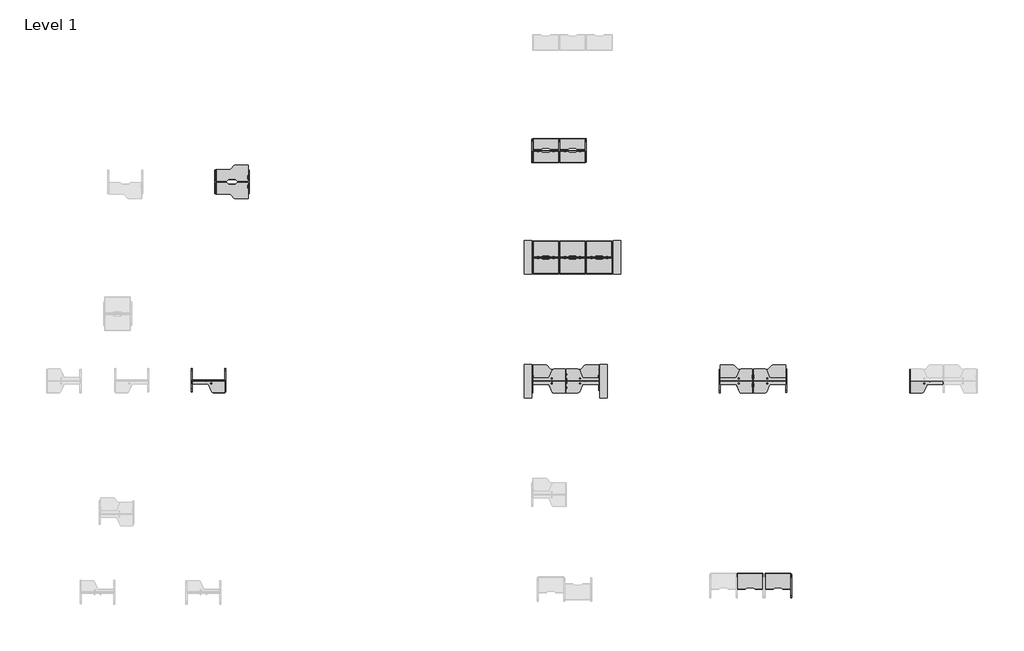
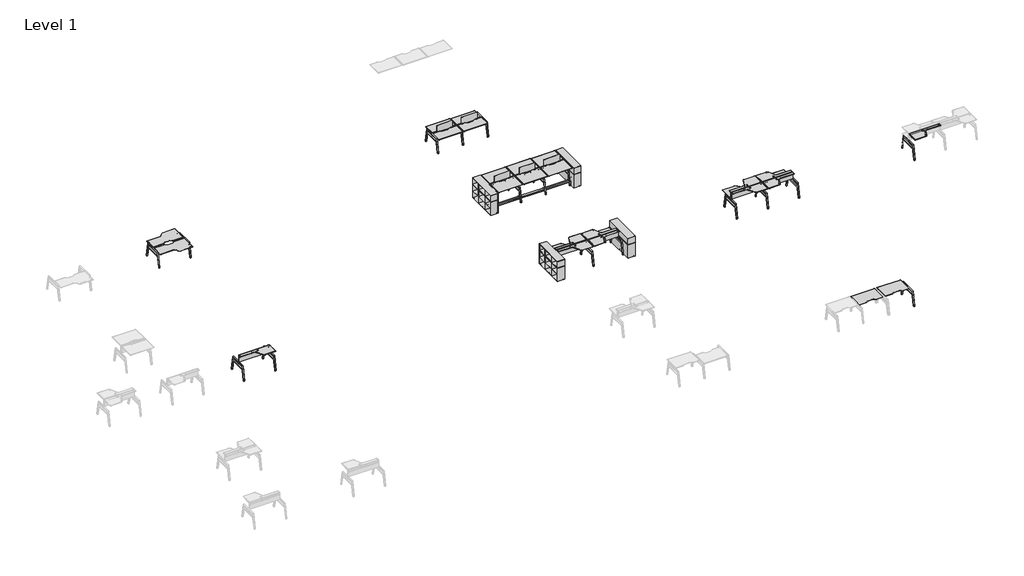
# One storey, part 3 of 6: 115 furniture elements.
"""IFC4 building model written with IfcOpenShell, lengths in millimetres."""

from ifc_helpers import new_model, si_unit, origin, place, context, project, spatial, transform, mapped, element, save
from components import furniture_6679164a, furniture_2405483f, furniture_07929c5c, furniture_5ffd5a01, furniture_3_high_75bf60bf, furniture_3_high_59e398f0, furniture_3_high_cb3a7265, furniture_2_high_e7661cec, furniture_48w_80b5658e, furniture_48w_f59d3814, furniture_60w_cce648a8, furniture_60w_9ca0c22e, furniture_60w_left_193ce283, furniture_60w_left_80dfc609, furniture_60w_right_423f7bdd, furniture_60w_right_6b6f8c7d, furniture_60w_right_3e926bd7, furniture_60w_right_09d68f9b, double_mini_hook_front_8bcf4326, double_mini_hook_front_c12a3f64, full_half_8ba35e3a, full_half_125b1efd, lower_48w_93449fcc, lower_48w_d15a52aa, table_mount_b10ff3c6, table_mount_8f96cead

model = new_model("IFC4")

# Units and contexts
model_context = context("Model", 3, world=origin())
ifc_project = project(units=[si_unit("LENGTHUNIT", "METRE", prefix="MILLI")], contexts=[model_context])

# Site, building, storey
site = spatial("IfcSite", under=ifc_project)
building = spatial("IfcBuilding", under=site)
storey = spatial("IfcBuildingStorey", under=building, Name="Level 1", Elevation=0.0)

# Furniture
placement = place(None, origin())
furniture_shape = furniture_6679164a(model_context)
element("IfcFurniture", 1, ObjectType="Steelcase Turnstone - Bivi - Table - Table Top : 30D x 48W", at=placement, inside=storey, context=model_context, shape_type="MappedRepresentation", body=[
    mapped(furniture_shape, transform((720817.4614089, -9042.1725223, 342.9), x_axis=(1.0, 0.0, 0.0), y_axis=(0.0, 1.0, 0.0), z_axis=(0.0, 0.0, 1.0))),
])
element("IfcFurniture", 2, ObjectType="Steelcase Turnstone - Bivi - Table - Table Top : 30D x 48W", at=placement, inside=storey, context=model_context, shape_type="MappedRepresentation", body=[
    mapped(furniture_shape, transform((722034.9850089, -9042.1725223, 342.9), x_axis=(1.0, 0.0, 0.0), y_axis=(0.0, 1.0, 0.0), z_axis=(0.0, 0.0, 1.0))),
])
element("IfcFurniture", 3, ObjectType="Steelcase Turnstone - Bivi - Table - Table Top : 30D x 48W", at=placement, inside=storey, context=model_context, shape_type="MappedRepresentation", body=[
    mapped(furniture_shape, transform((723252.5086089, -9042.1725223, 342.9), x_axis=(1.0, 0.0, 0.0), y_axis=(0.0, 1.0, 0.0), z_axis=(0.0, 0.0, 1.0))),
])
element("IfcFurniture", 4, ObjectType="Steelcase Turnstone - Bivi - Table - Table Top : 30D x 48W", at=placement, inside=storey, context=model_context, shape_type="MappedRepresentation", body=[
    mapped(furniture_shape, transform((724724.3517133, -7547.6349873, 342.9), x_axis=(-1.0000000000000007, 0.0, 0.0), y_axis=(0.0, -1.0000000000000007, 0.0), z_axis=(0.0, 0.0, 1.0))),
])
element("IfcFurniture", 5, ObjectType="Steelcase Turnstone - Bivi - Table - Table Top : 30D x 48W", at=placement, inside=storey, context=model_context, shape_type="MappedRepresentation", body=[
    mapped(furniture_shape, transform((723508.1850089, -7547.6349873, 342.9), x_axis=(-1.0, 0.0, 0.0), y_axis=(0.0, -1.0, 0.0), z_axis=(0.0, 0.0, 1.0))),
])
element("IfcFurniture", 6, ObjectType="Steelcase Turnstone - Bivi - Table - Table Top : 30D x 48W", at=placement, inside=storey, context=model_context, shape_type="MappedRepresentation", body=[
    mapped(furniture_shape, transform((722290.6614089, -7547.6349873, 342.9), x_axis=(-1.0, 0.0, 0.0), y_axis=(0.0, -1.0, 0.0), z_axis=(0.0, 0.0, 1.0))),
])
element("IfcFurniture", 7, ObjectType="Steelcase Turnstone - Bivi - Table - Table Top : 30D x 48W", at=placement, inside=storey, context=model_context, shape_type="MappedRepresentation", body=[
    mapped(furniture_shape, transform((731608.1023207, -22712.7570381, 0.0), x_axis=(-1.0, 0.0, 0.0), y_axis=(0.0, -1.0, 0.0), z_axis=(0.0, 0.0, 1.0))),
])
element("IfcFurniture", 8, ObjectType="Steelcase Turnstone - Bivi - Table - Table Top : 30D x 48W", at=placement, inside=storey, context=model_context, shape_type="MappedRepresentation", body=[
    mapped(furniture_shape, transform((732874.7495207, -22712.7570381, 0.0), x_axis=(-1.0, 0.0, 0.0), y_axis=(0.0, -1.0, 0.0), z_axis=(0.0, 0.0, 1.0))),
])
furniture_2_shape = furniture_2405483f(model_context)
element("IfcFurniture", 9, ObjectType="Steelcase Turnstone - Bivi - Table - Table Top : 21D x 48W", at=placement, inside=storey, context=model_context, shape_type="MappedRepresentation", body=[
    mapped(furniture_2_shape, transform((720817.4614089, -4179.9288554, 0.0), x_axis=(1.0, 0.0, 0.0), y_axis=(0.0, 1.0, 0.0), z_axis=(0.0, 0.0, 1.0))),
])
element("IfcFurniture", 10, ObjectType="Steelcase Turnstone - Bivi - Table - Table Top : 21D x 48W", at=placement, inside=storey, context=model_context, shape_type="MappedRepresentation", body=[
    mapped(furniture_2_shape, transform((722034.9850089, -4168.4473052, 0.0), x_axis=(1.0, 0.0, 0.0), y_axis=(0.0, 1.0, 0.0), z_axis=(0.0, 0.0, 1.0))),
])
element("IfcFurniture", 11, ObjectType="Steelcase Turnstone - Bivi - Table - Table Top : 21D x 48W", at=placement, inside=storey, context=model_context, shape_type="MappedRepresentation", body=[
    mapped(furniture_2_shape, transform((723508.1850089, -2656.390765, 0.0), x_axis=(-1.0000000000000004, 0.0, 0.0), y_axis=(0.0, -1.0000000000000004, 0.0), z_axis=(0.0, 0.0, 1.0))),
])
element("IfcFurniture", 12, ObjectType="Steelcase Turnstone - Bivi - Table - Table Top : 21D x 48W", at=placement, inside=storey, context=model_context, shape_type="MappedRepresentation", body=[
    mapped(furniture_2_shape, transform((722290.6614089, -2656.390765, 0.0), x_axis=(-1.0, 0.0, 0.0), y_axis=(0.0, -1.0, 0.0), z_axis=(0.0, 0.0, 1.0))),
])
furniture_3_shape = furniture_07929c5c(model_context)
element("IfcFurniture", 13, ObjectType="Steelcase Turnstone - Bivi - Table - Leg : 2D x 42 1/4W 28 1/2H", at=placement, inside=storey, context=model_context, shape_type="MappedRepresentation", body=[
    mapped(furniture_3_shape, transform((708035.1482581, -5382.1993674, 0.0), x_axis=(-1.0, 0.0, 0.0), y_axis=(0.0, -1.0, 0.0), z_axis=(0.0, 0.0, 1.0))),
])
element("IfcFurniture", 14, ObjectType="Steelcase Turnstone - Bivi - Table - Leg : 2D x 42 1/4W 28 1/2H", at=placement, inside=storey, context=model_context, shape_type="MappedRepresentation", body=[
    mapped(furniture_3_shape, transform((722187.3850089, -3954.7967596, 0.0), x_axis=(-1.0, 0.0, 0.0), y_axis=(0.0, -1.0, 0.0), z_axis=(0.0, 0.0, 1.0))),
])
element("IfcFurniture", 15, ObjectType="Steelcase Turnstone - Bivi - Table - Leg : 2D x 42 1/4W 28 1/2H", at=placement, inside=storey, context=model_context, shape_type="MappedRepresentation", body=[
    mapped(furniture_3_shape, transform((723404.9086089, -3954.7967596, 0.0), x_axis=(-1.0, 0.0, 0.0), y_axis=(0.0, -1.0, 0.0), z_axis=(0.0, 0.0, 1.0))),
])
element("IfcFurniture", 16, ObjectType="Steelcase Turnstone - Bivi - Table - Leg : 2D x 42 1/4W 28 1/2H", at=placement, inside=storey, context=model_context, shape_type="MappedRepresentation", body=[
    mapped(furniture_3_shape, transform((722187.3850089, -8852.8908952, 0.0), x_axis=(-1.0, 0.0, 0.0), y_axis=(0.0, -1.0, 0.0), z_axis=(0.0, 0.0, 1.0))),
])
element("IfcFurniture", 17, ObjectType="Steelcase Turnstone - Bivi - Table - Leg : 2D x 42 1/4W 28 1/2H", at=placement, inside=storey, context=model_context, shape_type="MappedRepresentation", body=[
    mapped(furniture_3_shape, transform((723404.9086089, -8852.8908952, 0.0), x_axis=(-1.0, 0.0, 0.0), y_axis=(0.0, -1.0, 0.0), z_axis=(0.0, 0.0, 1.0))),
])
element("IfcFurniture", 18, ObjectType="Steelcase Turnstone - Bivi - Table - Leg : 2D x 42 1/4W 28 1/2H", at=placement, inside=storey, context=model_context, shape_type="MappedRepresentation", body=[
    mapped(furniture_3_shape, transform((722492.1850089, -14477.6722991, 0.0), x_axis=(-1.0, 0.0, 0.0), y_axis=(0.0, -1.0, 0.0), z_axis=(0.0, 0.0, 1.0))),
])
element("IfcFurniture", 19, ObjectType="Steelcase Turnstone - Bivi - Table - Leg : 2D x 42 1/4W 28 1/2H", at=placement, inside=storey, context=model_context, shape_type="MappedRepresentation", body=[
    mapped(furniture_3_shape, transform((731026.5850089, -14477.6722991, 0.0), x_axis=(-1.0, 0.0, 0.0), y_axis=(0.0, -1.0, 0.0), z_axis=(0.0, 0.0, 1.0))),
])
element("IfcFurniture", 20, ObjectType="Steelcase Turnstone - Bivi - Table - Leg : 2D x 42 1/4W 28 1/2H", at=placement, inside=storey, context=model_context, shape_type="MappedRepresentation", body=[
    mapped(furniture_3_shape, transform((732771.4731207, -23828.3096324, 0.0), x_axis=(-1.0, 0.0, 0.0), y_axis=(0.0, -1.0, 0.0), z_axis=(0.0, 0.0, 1.0))),
])
element("IfcFurniture", 21, ObjectType="Steelcase Turnstone - Bivi - Table - Leg : 2D x 42 1/4W 28 1/2H", at=placement, inside=storey, context=model_context, shape_type="MappedRepresentation", body=[
    mapped(furniture_3_shape, transform((706967.4208352, -14423.847304, 0.0), x_axis=(-1.0, 0.0, 0.0), y_axis=(0.0, -1.0, 0.0), z_axis=(0.0, 0.0, 1.0))),
])
furniture_4_shape = furniture_5ffd5a01(model_context)
element("IfcFurniture", 22, ObjectType="Steelcase Turnstone - Bivi - Table - Leg : 2D x 42 1/4W 28 1/2H", at=placement, inside=storey, context=model_context, shape_type="MappedRepresentation", body=[
    mapped(furniture_4_shape, transform((706463.6950567, -5382.1993674, 0.0), x_axis=(1.0, 0.0, 0.0), y_axis=(0.0, 1.0, 0.0), z_axis=(0.0, 0.0, 1.0))),
])
element("IfcFurniture", 23, ObjectType="Steelcase Turnstone - Bivi - Table - Leg : 2D x 42 1/4W 28 1/2H", at=placement, inside=storey, context=model_context, shape_type="MappedRepresentation", body=[
    mapped(furniture_4_shape, transform((720920.7378089, -3962.0722991, 0.0), x_axis=(1.0, 0.0, 0.0), y_axis=(0.0, 1.0, 0.0), z_axis=(0.0, 0.0, 1.0))),
])
element("IfcFurniture", 24, ObjectType="Steelcase Turnstone - Bivi - Table - Leg : 2D x 42 1/4W 28 1/2H", at=placement, inside=storey, context=model_context, shape_type="MappedRepresentation", body=[
    mapped(furniture_4_shape, transform((720920.7378089, -8811.7961262, 0.0), x_axis=(1.0, 0.0, 0.0), y_axis=(0.0, 1.0, 0.0), z_axis=(0.0, 0.0, 1.0))),
])
element("IfcFurniture", 25, ObjectType="Steelcase Turnstone - Bivi - Table - Leg : 2D x 42 1/4W 28 1/2H", at=placement, inside=storey, context=model_context, shape_type="MappedRepresentation", body=[
    mapped(furniture_4_shape, transform((724571.9517133, -8790.5861861, 0.0), x_axis=(1.0, 0.0, 0.0), y_axis=(0.0, 1.0, 0.0), z_axis=(0.0, 0.0, 1.0))),
])
element("IfcFurniture", 26, ObjectType="Steelcase Turnstone - Bivi - Table - Leg : 2D x 42 1/4W 28 1/2H", at=placement, inside=storey, context=model_context, shape_type="MappedRepresentation", body=[
    mapped(furniture_4_shape, transform((720920.7378089, -14477.6722991, 0.0), x_axis=(1.0, 0.0, 0.0), y_axis=(0.0, 1.0, 0.0), z_axis=(0.0, 0.0, 1.0))),
])
element("IfcFurniture", 27, ObjectType="Steelcase Turnstone - Bivi - Table - Leg : 2D x 42 1/4W 28 1/2H", at=placement, inside=storey, context=model_context, shape_type="MappedRepresentation", body=[
    mapped(furniture_4_shape, transform((723963.7086089, -14352.195457, 0.0), x_axis=(1.0, 0.0, 0.0), y_axis=(0.0, 1.0, 0.0), z_axis=(0.0, 0.0, 1.0))),
])
element("IfcFurniture", 28, ObjectType="Steelcase Turnstone - Bivi - Table - Leg : 2D x 42 1/4W 28 1/2H", at=placement, inside=storey, context=model_context, shape_type="MappedRepresentation", body=[
    mapped(furniture_4_shape, transform((729455.1378089, -14477.6722991, 0.0), x_axis=(1.0, 0.0, 0.0), y_axis=(0.0, 1.0, 0.0), z_axis=(0.0, 0.0, 1.0))),
])
element("IfcFurniture", 29, ObjectType="Steelcase Turnstone - Bivi - Table - Leg : 2D x 42 1/4W 28 1/2H", at=placement, inside=storey, context=model_context, shape_type="MappedRepresentation", body=[
    mapped(furniture_4_shape, transform((732498.1086089, -14455.8404265, 0.0), x_axis=(1.0, 0.0, 0.0), y_axis=(0.0, 1.0, 0.0), z_axis=(0.0, 0.0, 1.0))),
])
element("IfcFurniture", 30, ObjectType="Steelcase Turnstone - Bivi - Table - Leg : 2D x 42 1/4W 28 1/2H", at=placement, inside=storey, context=model_context, shape_type="MappedRepresentation", body=[
    mapped(furniture_4_shape, transform((738141.9378089, -14477.6722991, 0.0), x_axis=(1.0, 0.0, 0.0), y_axis=(0.0, 1.0, 0.0), z_axis=(0.0, 0.0, 1.0))),
])
element("IfcFurniture", 31, ObjectType="Steelcase Turnstone - Bivi - Table - Leg : 2D x 42 1/4W 28 1/2H", at=placement, inside=storey, context=model_context, shape_type="MappedRepresentation", body=[
    mapped(furniture_4_shape, transform((705395.9736352, -14423.847304, 0.0), x_axis=(1.0, 0.0, 0.0), y_axis=(0.0, 1.0, 0.0), z_axis=(0.0, 0.0, 1.0))),
])
furniture_3_high_shape = furniture_3_high_75bf60bf(model_context)
furniture_3_high_2_shape = furniture_3_high_59e398f0(model_context)
element("IfcFurniture", 32, ObjectType="Steelcase Turnstone - Bivi - Storage - Depot : 3 High", at=placement, inside=storey, context=model_context, shape_type="MappedRepresentation", body=[
    mapped(furniture_3_high_shape, transform((720568.3128089, -9056.7288494, 0.0), x_axis=(0.0, 1.0, 0.0), y_axis=(-1.0, 0.0, 0.0), z_axis=(0.0, 0.0, 1.0))),
    mapped(furniture_3_high_2_shape, transform((720568.3128089, -9056.7288494, 0.0), x_axis=(0.0, 1.0, 0.0), y_axis=(-1.0, 0.0, 0.0), z_axis=(0.0, 0.0, 1.0))),
])
element("IfcFurniture", 33, ObjectType="Steelcase Turnstone - Bivi - Storage - Depot : 3 High", at=placement, inside=storey, context=model_context, shape_type="MappedRepresentation", body=[
    mapped(furniture_3_high_shape, transform((720568.3128089, -14695.5288494, 0.0), x_axis=(0.0, 1.0, 0.0), y_axis=(-1.0, 0.0, 0.0), z_axis=(0.0, 0.0, 1.0))),
    mapped(furniture_3_high_2_shape, transform((720568.3128089, -14695.5288494, 0.0), x_axis=(0.0, 1.0, 0.0), y_axis=(-1.0, 0.0, 0.0), z_axis=(0.0, 0.0, 1.0))),
])
furniture_3_high_3_shape = furniture_3_high_cb3a7265(model_context)
furniture_2_high_shape = furniture_2_high_e7661cec(model_context)
element("IfcFurniture", 34, ObjectType="Steelcase Turnstone - Bivi - Storage - Depot : 3 High", at=placement, inside=storey, context=model_context, shape_type="MappedRepresentation", body=[
    mapped(furniture_3_high_3_shape, transform((724974.8572089, -9056.7288494, 0.0), x_axis=(0.0, 1.0, 0.0), y_axis=(-1.0, 0.0, 0.0), z_axis=(0.0, 0.0, 1.0))),
    mapped(furniture_2_high_shape, transform((724974.8572089, -9056.7288494, 0.0), x_axis=(0.0, 1.0, 0.0), y_axis=(-1.0, 0.0, 0.0), z_axis=(0.0, 0.0, 1.0))),
])
element("IfcFurniture", 35, ObjectType="Steelcase Turnstone - Bivi - Storage - Depot : 3 High", at=placement, inside=storey, context=model_context, shape_type="MappedRepresentation", body=[
    mapped(furniture_3_high_3_shape, transform((724365.2572089, -14695.5288494, 0.0), x_axis=(0.0, 1.0, 0.0), y_axis=(-1.0, 0.0, 0.0), z_axis=(0.0, 0.0, 1.0))),
    mapped(furniture_2_high_shape, transform((724365.2572089, -14695.5288494, 0.0), x_axis=(0.0, 1.0, 0.0), y_axis=(-1.0, 0.0, 0.0), z_axis=(0.0, 0.0, 1.0))),
])
furniture_48w_shape = furniture_48w_80b5658e(model_context)
element("IfcFurniture", 36, ObjectType="Steelcase Turnstone - Bivi - Accessories - High Sit Bracket with Modesty Panel : 48W", at=placement, inside=storey, context=model_context, shape_type="MappedRepresentation", body=[
    mapped(furniture_48w_shape, transform((723509.9630089, -8212.4769492, 0.0), x_axis=(-1.0, 0.0, 0.0), y_axis=(0.0, -1.0, 0.0), z_axis=(0.0, 0.0, 1.0))),
])
furniture_48w_2_shape = furniture_48w_f59d3814(model_context)
element("IfcFurniture", 37, ObjectType="Steelcase Turnstone - Bivi - Accessories - High Sit Bracket with Modesty Panel : 48W", at=placement, inside=storey, context=model_context, shape_type="MappedRepresentation", body=[
    mapped(furniture_48w_2_shape, transform((720815.6834089, -8212.4769492, 0.0), x_axis=(1.0, 0.0, 0.0), y_axis=(0.0, 1.0, 0.0), z_axis=(0.0, 0.0, 1.0))),
])
element("IfcFurniture", 38, ObjectType="Steelcase Turnstone - Bivi - Accessories - High Sit Bracket with Modesty Panel : 48W", at=placement, inside=storey, context=model_context, shape_type="MappedRepresentation", body=[
    mapped(furniture_48w_2_shape, transform((723250.7306089, -8212.4769492, 0.0), x_axis=(1.0, 0.0, 0.0), y_axis=(0.0, 1.0, 0.0), z_axis=(0.0, 0.0, 1.0))),
])
furniture_60w_shape = furniture_60w_cce648a8(model_context)
element("IfcFurniture", 39, ObjectType="Steelcase Turnstone - Bivi - Accessories - High Sit Bracket with Modesty Panel : 60W", at=placement, inside=storey, context=model_context, shape_type="MappedRepresentation", body=[
    mapped(furniture_60w_shape, transform((723965.8157862, -13851.2769492, 0.0), x_axis=(-1.0, 0.0, 0.0), y_axis=(0.0, -1.0, 0.0), z_axis=(0.0, 0.0, 1.0))),
])
element("IfcFurniture", 40, ObjectType="Steelcase Turnstone - Bivi - Accessories - High Sit Bracket with Modesty Panel : 60W", at=placement, inside=storey, context=model_context, shape_type="MappedRepresentation", body=[
    mapped(furniture_60w_shape, transform((732500.2157862, -13851.2769492, 0.0), x_axis=(-1.0, 0.0, 0.0), y_axis=(0.0, -1.0, 0.0), z_axis=(0.0, 0.0, 1.0))),
])
furniture_60w_2_shape = furniture_60w_9ca0c22e(model_context)
element("IfcFurniture", 41, ObjectType="Steelcase Turnstone - Bivi - Accessories - High Sit Bracket with Modesty Panel : 60W", at=placement, inside=storey, context=model_context, shape_type="MappedRepresentation", body=[
    mapped(furniture_60w_2_shape, transform((705443.3192352, -13841.0954705, 0.0), x_axis=(1.0, 0.0, 0.0), y_axis=(0.0, 1.0, 0.0), z_axis=(0.0, 0.0, 1.0))),
])
element("IfcFurniture", 42, ObjectType="Steelcase Turnstone - Bivi - Accessories - High Sit Bracket with Modesty Panel : 60W", at=placement, inside=storey, context=model_context, shape_type="MappedRepresentation", body=[
    mapped(furniture_60w_2_shape, transform((720969.4306316, -13851.2769492, 0.0), x_axis=(1.0, 0.0, 0.0), y_axis=(0.0, 1.0, 0.0), z_axis=(0.0, 0.0, 1.0))),
])
element("IfcFurniture", 43, ObjectType="Steelcase Turnstone - Bivi - Accessories - High Sit Bracket with Modesty Panel : 60W", at=placement, inside=storey, context=model_context, shape_type="MappedRepresentation", body=[
    mapped(furniture_60w_2_shape, transform((729503.8306316, -13851.2769492, 0.0), x_axis=(1.0, 0.0, 0.0), y_axis=(0.0, 1.0, 0.0), z_axis=(0.0, 0.0, 1.0))),
])
furniture_60w_left_shape = furniture_60w_left_193ce283(model_context)
element("IfcFurniture", 44, ObjectType="Steelcase Turnstone - Bivi - Table - Dual Top - Upper : 60W - Left", at=placement, inside=storey, context=model_context, shape_type="MappedRepresentation", body=[
    mapped(furniture_60w_left_shape, transform((722341.5790244, -14769.019473, 0.0), x_axis=(1.0, 0.0, 0.0), y_axis=(0.0, 1.0, 0.0), z_axis=(0.0, 0.0, 1.0))),
])
element("IfcFurniture", 45, ObjectType="Steelcase Turnstone - Bivi - Table - Dual Top - Upper : 60W - Left", at=placement, inside=storey, context=model_context, shape_type="MappedRepresentation", body=[
    mapped(furniture_60w_left_shape, transform((730875.9790244, -14769.019473, 0.0), x_axis=(1.0, 0.0, 0.0), y_axis=(0.0, 1.0, 0.0), z_axis=(0.0, 0.0, 1.0))),
])
element("IfcFurniture", 46, ObjectType="Steelcase Turnstone - Bivi - Table - Dual Top - Upper : 60W - Left", at=placement, inside=storey, context=model_context, shape_type="MappedRepresentation", body=[
    mapped(furniture_60w_left_shape, transform((738038.7790244, -14769.019473, 0.0), x_axis=(1.0, 0.0, 0.0), y_axis=(0.0, 1.0, 0.0), z_axis=(0.0, 0.0, 1.0))),
])
furniture_60w_left_2_shape = furniture_60w_left_80dfc609(model_context)
element("IfcFurniture", 47, ObjectType="Steelcase Turnstone - Bivi - Table - Dual Top - Upper : 60W - Left", at=placement, inside=storey, context=model_context, shape_type="MappedRepresentation", body=[
    mapped(furniture_60w_left_2_shape, transform((722341.5790244, -13098.5001474, 0.0), x_axis=(1.0, 0.0, 0.0), y_axis=(0.0, 1.0, 0.0), z_axis=(0.0, 0.0, 1.0))),
])
element("IfcFurniture", 48, ObjectType="Steelcase Turnstone - Bivi - Table - Dual Top - Upper : 60W - Left", at=placement, inside=storey, context=model_context, shape_type="MappedRepresentation", body=[
    mapped(furniture_60w_left_2_shape, transform((730875.9790244, -13098.5001474, 0.0), x_axis=(1.0, 0.0, 0.0), y_axis=(0.0, 1.0, 0.0), z_axis=(0.0, 0.0, 1.0))),
])
furniture_60w_right_shape = furniture_60w_right_423f7bdd(model_context)
element("IfcFurniture", 49, ObjectType="Steelcase Turnstone - Bivi - Table - Dual Top - Lower : 60W - Right", at=placement, inside=storey, context=model_context, shape_type="MappedRepresentation", body=[
    mapped(furniture_60w_right_shape, transform((706362.9754163, -5704.3601414, 0.0), x_axis=(1.0, 0.0, 0.0), y_axis=(0.0, 1.0, 0.0), z_axis=(0.0, 0.0, 1.0))),
])
element("IfcFurniture", 50, ObjectType="Steelcase Turnstone - Bivi - Table - Dual Top - Lower : 60W - Right", at=placement, inside=storey, context=model_context, shape_type="MappedRepresentation", body=[
    mapped(furniture_60w_right_shape, transform((722592.9046493, -13103.9813032, 0.0), x_axis=(-1.0000000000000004, 0.0, 0.0), y_axis=(0.0, -1.0000000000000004, 0.0), z_axis=(0.0, 0.0, 1.0))),
])
element("IfcFurniture", 51, ObjectType="Steelcase Turnstone - Bivi - Table - Dual Top - Lower : 60W - Right", at=placement, inside=storey, context=model_context, shape_type="MappedRepresentation", body=[
    mapped(furniture_60w_right_shape, transform((731127.3046493, -13103.9813032, 0.0), x_axis=(-1.0000000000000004, 0.0, 0.0), y_axis=(0.0, -1.0000000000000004, 0.0), z_axis=(0.0, 0.0, 1.0))),
])
furniture_60w_right_2_shape = furniture_60w_right_6b6f8c7d(model_context)
element("IfcFurniture", 52, ObjectType="Steelcase Turnstone - Bivi - Table - Dual Top - Upper : 60W - Right", at=placement, inside=storey, context=model_context, shape_type="MappedRepresentation", body=[
    mapped(furniture_60w_right_2_shape, transform((705294.4912507, -14758.7409282, 12.6390766), x_axis=(1.0, 0.0, 0.0), y_axis=(0.0, 1.0, 0.0), z_axis=(0.0, 0.0, 1.0))),
])
element("IfcFurniture", 53, ObjectType="Steelcase Turnstone - Bivi - Table - Dual Top - Upper : 60W - Right", at=placement, inside=storey, context=model_context, shape_type="MappedRepresentation", body=[
    mapped(furniture_60w_right_2_shape, transform((720819.2554244, -14769.019473, 0.0), x_axis=(1.0, 0.0, 0.0), y_axis=(0.0, 1.0, 0.0), z_axis=(0.0, 0.0, 1.0))),
])
element("IfcFurniture", 54, ObjectType="Steelcase Turnstone - Bivi - Table - Dual Top - Upper : 60W - Right", at=placement, inside=storey, context=model_context, shape_type="MappedRepresentation", body=[
    mapped(furniture_60w_right_2_shape, transform((729353.6554244, -14769.019473, 0.0), x_axis=(1.0, 0.0, 0.0), y_axis=(0.0, 1.0, 0.0), z_axis=(0.0, 0.0, 1.0))),
])
furniture_60w_right_3_shape = furniture_60w_right_3e926bd7(model_context)
element("IfcFurniture", 55, ObjectType="Steelcase Turnstone - Bivi - Table - Dual Top - Lower : 60W - Right", at=placement, inside=storey, context=model_context, shape_type="MappedRepresentation", body=[
    mapped(furniture_60w_right_3_shape, transform((706362.9754163, -3986.7646945, 0.0), x_axis=(1.0, 0.0, 0.0), y_axis=(0.0, 1.0, 0.0), z_axis=(0.0, 0.0, 1.0))),
])
element("IfcFurniture", 56, ObjectType="Steelcase Turnstone - Bivi - Table - Dual Top - Lower : 60W - Right", at=placement, inside=storey, context=model_context, shape_type="MappedRepresentation", body=[
    mapped(furniture_60w_right_3_shape, transform((722342.3417686, -13103.9813032, 0.0), x_axis=(1.0000000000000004, 0.0, 0.0), y_axis=(0.0, 1.0000000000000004, 0.0), z_axis=(0.0, 0.0, 1.0))),
])
element("IfcFurniture", 57, ObjectType="Steelcase Turnstone - Bivi - Table - Dual Top - Lower : 60W - Right", at=placement, inside=storey, context=model_context, shape_type="MappedRepresentation", body=[
    mapped(furniture_60w_right_3_shape, transform((730876.7417686, -13103.9813032, 0.0), x_axis=(1.0000000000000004, 0.0, 0.0), y_axis=(0.0, 1.0000000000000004, 0.0), z_axis=(0.0, 0.0, 1.0))),
])
furniture_60w_right_4_shape = furniture_60w_right_09d68f9b(model_context)
element("IfcFurniture", 58, ObjectType="Steelcase Turnstone - Bivi - Table - Dual Top - Upper : 60W - Right", at=placement, inside=storey, context=model_context, shape_type="MappedRepresentation", body=[
    mapped(furniture_60w_right_4_shape, transform((720819.2554244, -13098.5001474, 0.0), x_axis=(1.0, 0.0, 0.0), y_axis=(0.0, 1.0, 0.0), z_axis=(0.0, 0.0, 1.0))),
])
element("IfcFurniture", 59, ObjectType="Steelcase Turnstone - Bivi - Table - Dual Top - Upper : 60W - Right", at=placement, inside=storey, context=model_context, shape_type="MappedRepresentation", body=[
    mapped(furniture_60w_right_4_shape, transform((729353.6554244, -13098.5001474, 0.0), x_axis=(1.0, 0.0, 0.0), y_axis=(0.0, 1.0, 0.0), z_axis=(0.0, 0.0, 1.0))),
])
double_mini_hook_front_shape = double_mini_hook_front_8bcf4326(model_context)
element("IfcFurniture", 60, ObjectType="Steelcase Turnstone - Bivi - Accessories - Mini Hook : Double Mini Hook - Front", at=placement, inside=storey, context=model_context, shape_type="MappedRepresentation", body=[
    mapped(double_mini_hook_front_shape, transform((705443.3192352, -13841.0954705, 0.0), x_axis=(1.0, 0.0, 0.0), y_axis=(0.0, 1.0, 0.0), z_axis=(0.0, 0.0, 1.0))),
])
element("IfcFurniture", 61, ObjectType="Steelcase Turnstone - Bivi - Accessories - Mini Hook : Double Mini Hook - Front", at=placement, inside=storey, context=model_context, shape_type="MappedRepresentation", body=[
    mapped(double_mini_hook_front_shape, transform((720815.6834089, -8212.4769492, 0.0), x_axis=(1.0, 0.0, 0.0), y_axis=(0.0, 1.0, 0.0), z_axis=(0.0, 0.0, 1.0))),
])
element("IfcFurniture", 62, ObjectType="Steelcase Turnstone - Bivi - Accessories - Mini Hook : Double Mini Hook - Front", at=placement, inside=storey, context=model_context, shape_type="MappedRepresentation", body=[
    mapped(double_mini_hook_front_shape, transform((723250.7306089, -8212.4769492, 0.0), x_axis=(1.0, 0.0, 0.0), y_axis=(0.0, 1.0, 0.0), z_axis=(0.0, 0.0, 1.0))),
])
element("IfcFurniture", 63, ObjectType="Steelcase Turnstone - Bivi - Accessories - Mini Hook : Double Mini Hook - Front", at=placement, inside=storey, context=model_context, shape_type="MappedRepresentation", body=[
    mapped(double_mini_hook_front_shape, transform((720969.4306316, -13851.2769492, 0.0), x_axis=(1.0, 0.0, 0.0), y_axis=(0.0, 1.0, 0.0), z_axis=(0.0, 0.0, 1.0))),
])
element("IfcFurniture", 64, ObjectType="Steelcase Turnstone - Bivi - Accessories - Mini Hook : Double Mini Hook - Front", at=placement, inside=storey, context=model_context, shape_type="MappedRepresentation", body=[
    mapped(double_mini_hook_front_shape, transform((729503.8306316, -13851.2769492, 0.0), x_axis=(1.0, 0.0, 0.0), y_axis=(0.0, 1.0, 0.0), z_axis=(0.0, 0.0, 1.0))),
])
double_mini_hook_front_2_shape = double_mini_hook_front_c12a3f64(model_context)
element("IfcFurniture", 65, ObjectType="Steelcase Turnstone - Bivi - Accessories - Mini Hook : Double Mini Hook - Front", at=placement, inside=storey, context=model_context, shape_type="MappedRepresentation", body=[
    mapped(double_mini_hook_front_2_shape, transform((723509.9630089, -8212.4769492, 0.0), x_axis=(-1.0, 0.0, 0.0), y_axis=(0.0, -1.0, 0.0), z_axis=(0.0, 0.0, 1.0))),
])
element("IfcFurniture", 66, ObjectType="Steelcase Turnstone - Bivi - Accessories - Mini Hook : Double Mini Hook - Front", at=placement, inside=storey, context=model_context, shape_type="MappedRepresentation", body=[
    mapped(double_mini_hook_front_2_shape, transform((723965.8157862, -13851.2769492, 0.0), x_axis=(-1.0, 0.0, 0.0), y_axis=(0.0, -1.0, 0.0), z_axis=(0.0, 0.0, 1.0))),
])
element("IfcFurniture", 67, ObjectType="Steelcase Turnstone - Bivi - Accessories - Mini Hook : Double Mini Hook - Front", at=placement, inside=storey, context=model_context, shape_type="MappedRepresentation", body=[
    mapped(double_mini_hook_front_2_shape, transform((732500.2157862, -13851.2769492, 0.0), x_axis=(-1.0, 0.0, 0.0), y_axis=(0.0, -1.0, 0.0), z_axis=(0.0, 0.0, 1.0))),
])
full_half_shape = full_half_8ba35e3a(model_context)
element("IfcFurniture", 68, ObjectType="Steelcase Turnstone - Bivi - Table - Leg Cover : Full/Half", at=placement, inside=storey, context=model_context, shape_type="MappedRepresentation", body=[
    mapped(full_half_shape, transform((706463.6950567, -5382.1993674, 0.0), x_axis=(1.0, 0.0, 0.0), y_axis=(0.0, 1.0, 0.0), z_axis=(0.0, 0.0, 1.0))),
])
element("IfcFurniture", 69, ObjectType="Steelcase Turnstone - Bivi - Table - Leg Cover : Full/Half", at=placement, inside=storey, context=model_context, shape_type="MappedRepresentation", body=[
    mapped(full_half_shape, transform((708035.1482581, -4308.9254685, 0.0), x_axis=(-1.0, 0.0, 0.0), y_axis=(0.0, -1.0, 0.0), z_axis=(0.0, 0.0, 1.0))),
])
element("IfcFurniture", 70, ObjectType="Steelcase Turnstone - Bivi - Table - Leg Cover : Full/Half", at=placement, inside=storey, context=model_context, shape_type="MappedRepresentation", body=[
    mapped(full_half_shape, transform((720920.7378089, -3962.0722991, 0.0), x_axis=(1.0, 0.0, 0.0), y_axis=(0.0, 1.0, 0.0), z_axis=(0.0, 0.0, 1.0))),
])
element("IfcFurniture", 71, ObjectType="Steelcase Turnstone - Bivi - Table - Leg Cover : Full/Half", at=placement, inside=storey, context=model_context, shape_type="MappedRepresentation", body=[
    mapped(full_half_shape, transform((722187.3850089, -2881.5228607, 0.0), x_axis=(-1.0, 0.0, 0.0), y_axis=(0.0, -1.0, 0.0), z_axis=(0.0, 0.0, 1.0))),
])
element("IfcFurniture", 72, ObjectType="Steelcase Turnstone - Bivi - Table - Leg Cover : Full/Half", at=placement, inside=storey, context=model_context, shape_type="MappedRepresentation", body=[
    mapped(full_half_shape, transform((723404.9086089, -2881.5228607, 0.0), x_axis=(-1.0, 0.0, 0.0), y_axis=(0.0, -1.0, 0.0), z_axis=(0.0, 0.0, 1.0))),
])
element("IfcFurniture", 73, ObjectType="Steelcase Turnstone - Bivi - Table - Leg Cover : Full/Half", at=placement, inside=storey, context=model_context, shape_type="MappedRepresentation", body=[
    mapped(full_half_shape, transform((720920.7378089, -8811.7961262, 0.0), x_axis=(1.0, 0.0, 0.0), y_axis=(0.0, 1.0, 0.0), z_axis=(0.0, 0.0, 1.0))),
])
element("IfcFurniture", 74, ObjectType="Steelcase Turnstone - Bivi - Table - Leg Cover : Full/Half", at=placement, inside=storey, context=model_context, shape_type="MappedRepresentation", body=[
    mapped(full_half_shape, transform((722187.3850089, -7779.6169963, 0.0), x_axis=(-1.0, 0.0, 0.0), y_axis=(0.0, -1.0, 0.0), z_axis=(0.0, 0.0, 1.0))),
])
element("IfcFurniture", 75, ObjectType="Steelcase Turnstone - Bivi - Table - Leg Cover : Full/Half", at=placement, inside=storey, context=model_context, shape_type="MappedRepresentation", body=[
    mapped(full_half_shape, transform((723404.9086089, -7779.6169963, 0.0), x_axis=(-1.0, 0.0, 0.0), y_axis=(0.0, -1.0, 0.0), z_axis=(0.0, 0.0, 1.0))),
])
element("IfcFurniture", 76, ObjectType="Steelcase Turnstone - Bivi - Table - Leg Cover : Full/Half", at=placement, inside=storey, context=model_context, shape_type="MappedRepresentation", body=[
    mapped(full_half_shape, transform((724571.9517133, -8790.5861861, 0.0), x_axis=(1.0, 0.0, 0.0), y_axis=(0.0, 1.0, 0.0), z_axis=(0.0, 0.0, 1.0))),
])
element("IfcFurniture", 77, ObjectType="Steelcase Turnstone - Bivi - Table - Leg Cover : Full/Half", at=placement, inside=storey, context=model_context, shape_type="MappedRepresentation", body=[
    mapped(full_half_shape, transform((720920.7378089, -14477.6722991, 0.0), x_axis=(1.0, 0.0, 0.0), y_axis=(0.0, 1.0, 0.0), z_axis=(0.0, 0.0, 1.0))),
])
element("IfcFurniture", 78, ObjectType="Steelcase Turnstone - Bivi - Table - Leg Cover : Full/Half", at=placement, inside=storey, context=model_context, shape_type="MappedRepresentation", body=[
    mapped(full_half_shape, transform((722492.1850089, -13404.3984002, 0.0), x_axis=(-1.0, 0.0, 0.0), y_axis=(0.0, -1.0, 0.0), z_axis=(0.0, 0.0, 1.0))),
])
element("IfcFurniture", 79, ObjectType="Steelcase Turnstone - Bivi - Table - Leg Cover : Full/Half", at=placement, inside=storey, context=model_context, shape_type="MappedRepresentation", body=[
    mapped(full_half_shape, transform((723963.7086089, -14352.195457, 0.0), x_axis=(1.0, 0.0, 0.0), y_axis=(0.0, 1.0, 0.0), z_axis=(0.0, 0.0, 1.0))),
])
element("IfcFurniture", 80, ObjectType="Steelcase Turnstone - Bivi - Table - Leg Cover : Full/Half", at=placement, inside=storey, context=model_context, shape_type="MappedRepresentation", body=[
    mapped(full_half_shape, transform((729455.1378089, -14477.6722991, 0.0), x_axis=(1.0, 0.0, 0.0), y_axis=(0.0, 1.0, 0.0), z_axis=(0.0, 0.0, 1.0))),
])
element("IfcFurniture", 81, ObjectType="Steelcase Turnstone - Bivi - Table - Leg Cover : Full/Half", at=placement, inside=storey, context=model_context, shape_type="MappedRepresentation", body=[
    mapped(full_half_shape, transform((731026.5850089, -13404.3984002, 0.0), x_axis=(-1.0, 0.0, 0.0), y_axis=(0.0, -1.0, 0.0), z_axis=(0.0, 0.0, 1.0))),
])
element("IfcFurniture", 82, ObjectType="Steelcase Turnstone - Bivi - Table - Leg Cover : Full/Half", at=placement, inside=storey, context=model_context, shape_type="MappedRepresentation", body=[
    mapped(full_half_shape, transform((732498.1086089, -14455.8404265, 0.0), x_axis=(1.0, 0.0, 0.0), y_axis=(0.0, 1.0, 0.0), z_axis=(0.0, 0.0, 1.0))),
])
element("IfcFurniture", 83, ObjectType="Steelcase Turnstone - Bivi - Table - Leg Cover : Full/Half", at=placement, inside=storey, context=model_context, shape_type="MappedRepresentation", body=[
    mapped(full_half_shape, transform((738141.9378089, -14477.6722991, 0.0), x_axis=(1.0, 0.0, 0.0), y_axis=(0.0, 1.0, 0.0), z_axis=(0.0, 0.0, 1.0))),
])
element("IfcFurniture", 84, ObjectType="Steelcase Turnstone - Bivi - Table - Leg Cover : Full/Half", at=placement, inside=storey, context=model_context, shape_type="MappedRepresentation", body=[
    mapped(full_half_shape, transform((732771.4731207, -22755.0357335, 0.0), x_axis=(-1.0, 0.0, 0.0), y_axis=(0.0, -1.0, 0.0), z_axis=(0.0, 0.0, 1.0))),
])
element("IfcFurniture", 85, ObjectType="Steelcase Turnstone - Bivi - Table - Leg Cover : Full/Half", at=placement, inside=storey, context=model_context, shape_type="MappedRepresentation", body=[
    mapped(full_half_shape, transform((705395.9736352, -14423.847304, 0.0), x_axis=(1.0, 0.0, 0.0), y_axis=(0.0, 1.0, 0.0), z_axis=(0.0, 0.0, 1.0))),
])
element("IfcFurniture", 86, ObjectType="Steelcase Turnstone - Bivi - Table - Leg Cover : Full/Half", at=placement, inside=storey, context=model_context, shape_type="MappedRepresentation", body=[
    mapped(full_half_shape, transform((706967.4208352, -13350.5734051, 0.0), x_axis=(-1.0, 0.0, 0.0), y_axis=(0.0, -1.0, 0.0), z_axis=(0.0, 0.0, 1.0))),
])
full_half_2_shape = full_half_125b1efd(model_context)
element("IfcFurniture", 87, ObjectType="Steelcase Turnstone - Bivi - Table - Leg Cover : Full/Half", at=placement, inside=storey, context=model_context, shape_type="MappedRepresentation", body=[
    mapped(full_half_2_shape, transform((706463.6950567, -4308.9254685, 0.0), x_axis=(1.0, 0.0, 0.0), y_axis=(0.0, 1.0, 0.0), z_axis=(0.0, 0.0, 1.0))),
])
element("IfcFurniture", 88, ObjectType="Steelcase Turnstone - Bivi - Table - Leg Cover : Full/Half", at=placement, inside=storey, context=model_context, shape_type="MappedRepresentation", body=[
    mapped(full_half_2_shape, transform((708035.1482581, -5382.1993674, 0.0), x_axis=(-1.0, 0.0, 0.0), y_axis=(0.0, -1.0, 0.0), z_axis=(0.0, 0.0, 1.0))),
])
element("IfcFurniture", 89, ObjectType="Steelcase Turnstone - Bivi - Table - Leg Cover : Full/Half", at=placement, inside=storey, context=model_context, shape_type="MappedRepresentation", body=[
    mapped(full_half_2_shape, transform((720920.7378089, -2888.7984002, 0.0), x_axis=(1.0, 0.0, 0.0), y_axis=(0.0, 1.0, 0.0), z_axis=(0.0, 0.0, 1.0))),
])
element("IfcFurniture", 90, ObjectType="Steelcase Turnstone - Bivi - Table - Leg Cover : Full/Half", at=placement, inside=storey, context=model_context, shape_type="MappedRepresentation", body=[
    mapped(full_half_2_shape, transform((722187.3850089, -3954.7967596, 0.0), x_axis=(-1.0, 0.0, 0.0), y_axis=(0.0, -1.0, 0.0), z_axis=(0.0, 0.0, 1.0))),
])
element("IfcFurniture", 91, ObjectType="Steelcase Turnstone - Bivi - Table - Leg Cover : Full/Half", at=placement, inside=storey, context=model_context, shape_type="MappedRepresentation", body=[
    mapped(full_half_2_shape, transform((723404.9086089, -3954.7967596, 0.0), x_axis=(-1.0, 0.0, 0.0), y_axis=(0.0, -1.0, 0.0), z_axis=(0.0, 0.0, 1.0))),
])
element("IfcFurniture", 92, ObjectType="Steelcase Turnstone - Bivi - Table - Leg Cover : Full/Half", at=placement, inside=storey, context=model_context, shape_type="MappedRepresentation", body=[
    mapped(full_half_2_shape, transform((720920.7378089, -7738.5222273, 0.0), x_axis=(1.0, 0.0, 0.0), y_axis=(0.0, 1.0, 0.0), z_axis=(0.0, 0.0, 1.0))),
])
element("IfcFurniture", 93, ObjectType="Steelcase Turnstone - Bivi - Table - Leg Cover : Full/Half", at=placement, inside=storey, context=model_context, shape_type="MappedRepresentation", body=[
    mapped(full_half_2_shape, transform((722187.3850089, -8852.8908952, 0.0), x_axis=(-1.0, 0.0, 0.0), y_axis=(0.0, -1.0, 0.0), z_axis=(0.0, 0.0, 1.0))),
])
element("IfcFurniture", 94, ObjectType="Steelcase Turnstone - Bivi - Table - Leg Cover : Full/Half", at=placement, inside=storey, context=model_context, shape_type="MappedRepresentation", body=[
    mapped(full_half_2_shape, transform((723404.9086089, -8852.8908952, 0.0), x_axis=(-1.0, 0.0, 0.0), y_axis=(0.0, -1.0, 0.0), z_axis=(0.0, 0.0, 1.0))),
])
element("IfcFurniture", 95, ObjectType="Steelcase Turnstone - Bivi - Table - Leg Cover : Full/Half", at=placement, inside=storey, context=model_context, shape_type="MappedRepresentation", body=[
    mapped(full_half_2_shape, transform((724571.9517133, -7717.3122872, 0.0), x_axis=(1.0, 0.0, 0.0), y_axis=(0.0, 1.0, 0.0), z_axis=(0.0, 0.0, 1.0))),
])
element("IfcFurniture", 96, ObjectType="Steelcase Turnstone - Bivi - Table - Leg Cover : Full/Half", at=placement, inside=storey, context=model_context, shape_type="MappedRepresentation", body=[
    mapped(full_half_2_shape, transform((720920.7378089, -13404.3984002, 0.0), x_axis=(1.0, 0.0, 0.0), y_axis=(0.0, 1.0, 0.0), z_axis=(0.0, 0.0, 1.0))),
])
element("IfcFurniture", 97, ObjectType="Steelcase Turnstone - Bivi - Table - Leg Cover : Full/Half", at=placement, inside=storey, context=model_context, shape_type="MappedRepresentation", body=[
    mapped(full_half_2_shape, transform((722492.1850089, -14477.6722991, 0.0), x_axis=(-1.0, 0.0, 0.0), y_axis=(0.0, -1.0, 0.0), z_axis=(0.0, 0.0, 1.0))),
])
element("IfcFurniture", 98, ObjectType="Steelcase Turnstone - Bivi - Table - Leg Cover : Full/Half", at=placement, inside=storey, context=model_context, shape_type="MappedRepresentation", body=[
    mapped(full_half_2_shape, transform((723963.7086089, -13278.9215581, 0.0), x_axis=(1.0, 0.0, 0.0), y_axis=(0.0, 1.0, 0.0), z_axis=(0.0, 0.0, 1.0))),
])
element("IfcFurniture", 99, ObjectType="Steelcase Turnstone - Bivi - Table - Leg Cover : Full/Half", at=placement, inside=storey, context=model_context, shape_type="MappedRepresentation", body=[
    mapped(full_half_2_shape, transform((729455.1378089, -13404.3984002, 0.0), x_axis=(1.0, 0.0, 0.0), y_axis=(0.0, 1.0, 0.0), z_axis=(0.0, 0.0, 1.0))),
])
element("IfcFurniture", 100, ObjectType="Steelcase Turnstone - Bivi - Table - Leg Cover : Full/Half", at=placement, inside=storey, context=model_context, shape_type="MappedRepresentation", body=[
    mapped(full_half_2_shape, transform((731026.5850089, -14477.6722991, 0.0), x_axis=(-1.0, 0.0, 0.0), y_axis=(0.0, -1.0, 0.0), z_axis=(0.0, 0.0, 1.0))),
])
element("IfcFurniture", 101, ObjectType="Steelcase Turnstone - Bivi - Table - Leg Cover : Full/Half", at=placement, inside=storey, context=model_context, shape_type="MappedRepresentation", body=[
    mapped(full_half_2_shape, transform((732498.1086089, -13382.5665276, 0.0), x_axis=(1.0, 0.0, 0.0), y_axis=(0.0, 1.0, 0.0), z_axis=(0.0, 0.0, 1.0))),
])
element("IfcFurniture", 102, ObjectType="Steelcase Turnstone - Bivi - Table - Leg Cover : Full/Half", at=placement, inside=storey, context=model_context, shape_type="MappedRepresentation", body=[
    mapped(full_half_2_shape, transform((732771.4731207, -23828.3096324, 0.0), x_axis=(-1.0, 0.0, 0.0), y_axis=(0.0, -1.0, 0.0), z_axis=(0.0, 0.0, 1.0))),
])
element("IfcFurniture", 103, ObjectType="Steelcase Turnstone - Bivi - Table - Leg Cover : Full/Half", at=placement, inside=storey, context=model_context, shape_type="MappedRepresentation", body=[
    mapped(full_half_2_shape, transform((705395.9736352, -13350.5734051, 0.0), x_axis=(1.0, 0.0, 0.0), y_axis=(0.0, 1.0, 0.0), z_axis=(0.0, 0.0, 1.0))),
])
element("IfcFurniture", 104, ObjectType="Steelcase Turnstone - Bivi - Table - Leg Cover : Full/Half", at=placement, inside=storey, context=model_context, shape_type="MappedRepresentation", body=[
    mapped(full_half_2_shape, transform((706967.4208352, -14423.847304, 0.0), x_axis=(-1.0, 0.0, 0.0), y_axis=(0.0, -1.0, 0.0), z_axis=(0.0, 0.0, 1.0))),
])
lower_48w_shape = lower_48w_93449fcc(model_context)
element("IfcFurniture", 105, ObjectType="Steelcase Turnstone - Bivi - Accessories - Footshelf : Lower - 48W", at=placement, inside=storey, context=model_context, shape_type="MappedRepresentation", body=[
    mapped(lower_48w_shape, transform((723381.2739089, -8335.9703837, 0.0), x_axis=(-1.0, 0.0, 0.0), y_axis=(0.0, -1.0, 0.0), z_axis=(0.0, 0.0, 1.0))),
])
element("IfcFurniture", 106, ObjectType="Steelcase Turnstone - Bivi - Accessories - Footshelf : Lower - 48W", at=placement, inside=storey, context=model_context, shape_type="MappedRepresentation", body=[
    mapped(lower_48w_shape, transform((720944.3725089, -8253.9492367, 0.0), x_axis=(1.0, 0.0, 0.0), y_axis=(0.0, 1.0, 0.0), z_axis=(0.0, 0.0, 1.0))),
])
element("IfcFurniture", 107, ObjectType="Steelcase Turnstone - Bivi - Accessories - Footshelf : Lower - 48W", at=placement, inside=storey, context=model_context, shape_type="MappedRepresentation", body=[
    mapped(lower_48w_shape, transform((723380.9183089, -8253.9492367, 0.0), x_axis=(1.0, 0.0, 0.0), y_axis=(0.0, 1.0, 0.0), z_axis=(0.0, 0.0, 1.0))),
])
lower_48w_2_shape = lower_48w_d15a52aa(model_context)
element("IfcFurniture", 108, ObjectType="Steelcase Turnstone - Bivi - Accessories - Footshelf : Lower - 48W", at=placement, inside=storey, context=model_context, shape_type="MappedRepresentation", body=[
    mapped(lower_48w_2_shape, transform((720944.3725089, -8335.9703837, 0.0), x_axis=(1.0, 0.0, 0.0), y_axis=(0.0, 1.0, 0.0), z_axis=(0.0, 0.0, 1.0))),
])
element("IfcFurniture", 109, ObjectType="Steelcase Turnstone - Bivi - Accessories - Footshelf : Lower - 48W", at=placement, inside=storey, context=model_context, shape_type="MappedRepresentation", body=[
    mapped(lower_48w_2_shape, transform((723380.9183089, -8335.9703837, 0.0), x_axis=(1.0, 0.0, 0.0), y_axis=(0.0, 1.0, 0.0), z_axis=(0.0, 0.0, 1.0))),
])
element("IfcFurniture", 110, ObjectType="Steelcase Turnstone - Bivi - Accessories - Footshelf : Lower - 48W", at=placement, inside=storey, context=model_context, shape_type="MappedRepresentation", body=[
    mapped(lower_48w_2_shape, transform((723381.2739089, -8253.9492367, 0.0), x_axis=(-1.0, 0.0, 0.0), y_axis=(0.0, -1.0, 0.0), z_axis=(0.0, 0.0, 1.0))),
])
table_mount_shape = table_mount_b10ff3c6(model_context)
element("IfcFurniture", 111, ObjectType="Steelcase Turnstone - Bivi - Accessories - Screen - Metal : Table Mount", at=placement, inside=storey, context=model_context, shape_type="MappedRepresentation", body=[
    mapped(table_mount_shape, transform((724423.0103653, -8528.2588148, 343.69375), x_axis=(-1.0, 0.0, 0.0), y_axis=(0.0, -1.0, 0.0), z_axis=(0.0, 0.0, 1.0))),
])
table_mount_2_shape = table_mount_8f96cead(model_context)
element("IfcFurniture", 112, ObjectType="Steelcase Turnstone - Bivi - Accessories - Screen - Metal : Table Mount", at=placement, inside=storey, context=model_context, shape_type="MappedRepresentation", body=[
    mapped(table_mount_2_shape, transform((721120.1596526, -3651.4588148, 0.0), x_axis=(1.0, 0.0, 0.0), y_axis=(0.0, 1.0, 0.0), z_axis=(0.0, 0.0, 1.0))),
])
element("IfcFurniture", 113, ObjectType="Steelcase Turnstone - Bivi - Accessories - Screen - Metal : Table Mount", at=placement, inside=storey, context=model_context, shape_type="MappedRepresentation", body=[
    mapped(table_mount_2_shape, transform((722337.6832526, -3651.4588148, 0.0), x_axis=(1.0, 0.0, 0.0), y_axis=(0.0, 1.0, 0.0), z_axis=(0.0, 0.0, 1.0))),
])
element("IfcFurniture", 114, ObjectType="Steelcase Turnstone - Bivi - Accessories - Screen - Metal : Table Mount", at=placement, inside=storey, context=model_context, shape_type="MappedRepresentation", body=[
    mapped(table_mount_2_shape, transform((721120.1596526, -8528.2588148, 343.69375), x_axis=(1.0, 0.0, 0.0), y_axis=(0.0, 1.0, 0.0), z_axis=(0.0, 0.0, 1.0))),
])
element("IfcFurniture", 115, ObjectType="Steelcase Turnstone - Bivi - Accessories - Screen - Metal : Table Mount", at=placement, inside=storey, context=model_context, shape_type="MappedRepresentation", body=[
    mapped(table_mount_2_shape, transform((722337.6832526, -8528.2588148, 343.69375), x_axis=(1.0, 0.0, 0.0), y_axis=(0.0, 1.0, 0.0), z_axis=(0.0, 0.0, 1.0))),
])

save(model, "model.ifc")
